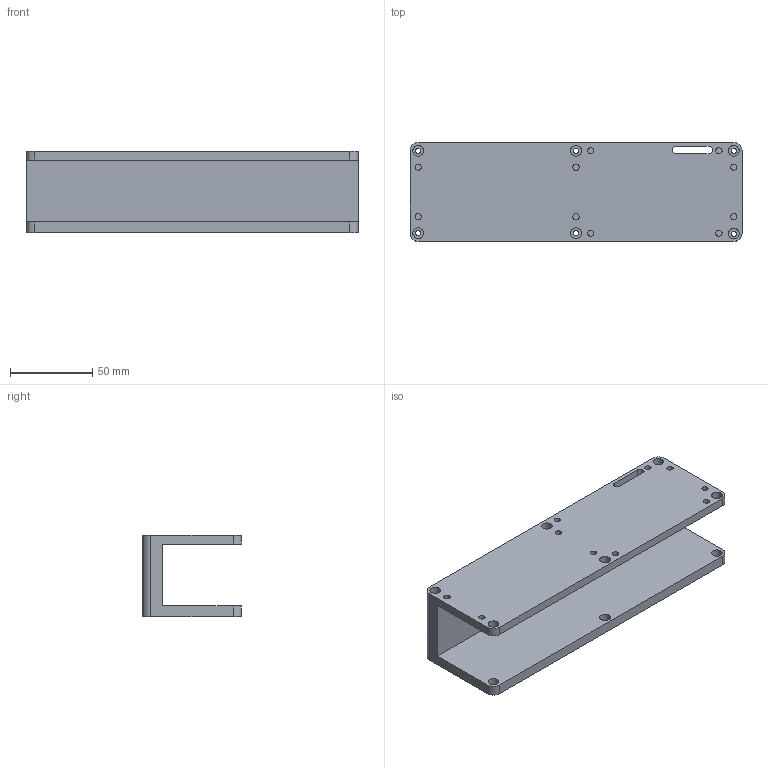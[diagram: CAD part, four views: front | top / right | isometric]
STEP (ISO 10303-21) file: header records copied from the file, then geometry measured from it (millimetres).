
FILE_DESCRIPTION(/* description */ (''),/* implementation_level */ '2;1');
FILE_NAME(/* name */ 'C:\Users\Karol\Documents\Inventor\gniazdo_desktop\C-Clamp_Bracket_34mm.stp',/* time_stamp */ '2026-03-16T23:09:10+01:00',/* author */ ('Karol'),/* organization */ (''),/* preprocessor_version */ 'ST-DEVELOPER v16.1',/* originating_system */ 'Autodesk Inventor 2016',/* authorisation */ '');
FILE_SCHEMA (('AUTOMOTIVE_DESIGN { 1 0 10303 214 3 1 1 }'));
Length unit declared in the file: millimetre
Products named in the file (1): blat_holder34mm
Bounding box: 201.44 x 60 x 49.3 mm (x, y, z)
Volume: 220934.2 mm3; surface area: 71665 mm2
Topology: 1 solids, 1 shells, 53 faces, 131 edges, 90 vertices
Faces by surface type: cylinder 33, plane 20
Full cylindrical faces by diameter (mm): 3.2 x6, 3.8 x10, 6.5 x9
Entity records: 1584 total; most frequent: DIRECTION 280, CARTESIAN_POINT 250, ORIENTED_EDGE 208, EDGE_LOOP 122, AXIS2_PLACEMENT_3D 120, EDGE_CURVE 104, VERTEX_POINT 86, FACE_BOUND 69
